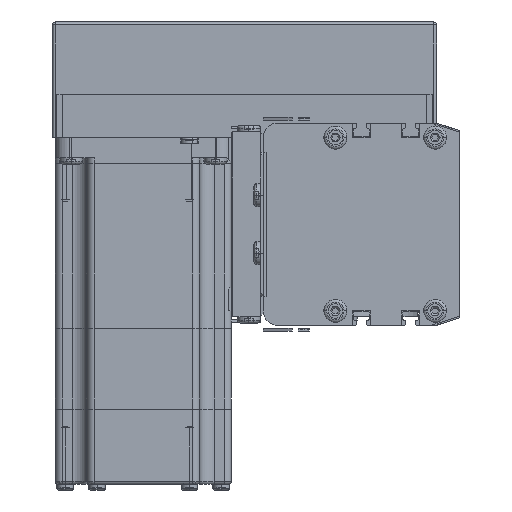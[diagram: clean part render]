
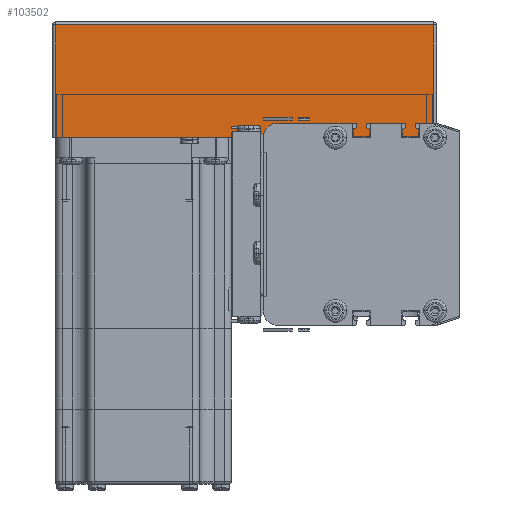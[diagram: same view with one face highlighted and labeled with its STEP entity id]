
A CAD part, left-side view. The second image highlights one B-rep face of the part: STEP entity #103502.
In plain terms, the highlighted planar face has unit normal (-1, 0, 0) as drawn and (0, -1, 0) by its records, which use the part's own axes.
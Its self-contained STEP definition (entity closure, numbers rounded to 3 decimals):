
#27638 = EDGE_CURVE ( 'NONE', #27645, #27647, #83824, .T. ) ;
#27645 = VERTEX_POINT ( 'NONE', #83987 ) ;
#27647 = VERTEX_POINT ( 'NONE', #84009 ) ;
#83824 = LINE ( 'NONE', #83980, #84026 ) ;
#83979 = DIRECTION ( 'NONE',  ( 1., 0., 0. ) ) ;
#83980 = CARTESIAN_POINT ( 'NONE',  ( 0., 0., 0. ) ) ;
#83987 = CARTESIAN_POINT ( 'NONE',  ( 1., 0., 0. ) ) ;
#84009 = CARTESIAN_POINT ( 'NONE',  ( 132., 0., 0. ) ) ;
#84026 = VECTOR ( 'NONE', #83979, 1000. ) ;
#103481 = VERTEX_POINT ( 'NONE', #134685 ) ;
#103502 = ADVANCED_FACE ( 'NONE', ( #134666 ), #134647, .F. ) ;
#103506 = ORIENTED_EDGE ( 'NONE', *, *, #103510, .T. ) ;
#103508 = EDGE_CURVE ( 'NONE', #103927, #27645, #134736, .T. ) ;
#103510 = EDGE_CURVE ( 'NONE', #103481, #103927, #134733, .T. ) ;
#103511 = EDGE_CURVE ( 'NONE', #27647, #103481, #134726, .T. ) ;
#103514 = ORIENTED_EDGE ( 'NONE', *, *, #103511, .T. ) ;
#103516 = ORIENTED_EDGE ( 'NONE', *, *, #27638, .T. ) ;
#103920 = ORIENTED_EDGE ( 'NONE', *, *, #103508, .T. ) ;
#103927 = VERTEX_POINT ( 'NONE', #135943 ) ;
#103941 = EDGE_LOOP ( 'NONE', ( #103506, #103920, #103516, #103514 ) ) ;
#134647 = PLANE ( 'NONE',  #134651 ) ;
#134651 = AXIS2_PLACEMENT_3D ( 'NONE', #134679, #134658, #134657 ) ;
#134657 = DIRECTION ( 'NONE',  ( 0., 0., 1. ) ) ;
#134658 = DIRECTION ( 'NONE',  ( 0., 1., 0. ) ) ;
#134666 = FACE_OUTER_BOUND ( 'NONE', #103941, .T. ) ;
#134679 = CARTESIAN_POINT ( 'NONE',  ( 0., 0., 40. ) ) ;
#134685 = CARTESIAN_POINT ( 'NONE',  ( 132., 0., 39. ) ) ;
#134723 = DIRECTION ( 'NONE',  ( 0., 0., 1. ) ) ;
#134724 = VECTOR ( 'NONE', #134723, 1000. ) ;
#134725 = CARTESIAN_POINT ( 'NONE',  ( 132., 0., 40. ) ) ;
#134726 = LINE ( 'NONE', #134725, #134724 ) ;
#134727 = DIRECTION ( 'NONE',  ( -1., 0., 0. ) ) ;
#134728 = VECTOR ( 'NONE', #134727, 1000. ) ;
#134729 = CARTESIAN_POINT ( 'NONE',  ( 0., 0., 39. ) ) ;
#134730 = DIRECTION ( 'NONE',  ( 0., 0., -1. ) ) ;
#134731 = VECTOR ( 'NONE', #134730, 1000. ) ;
#134732 = CARTESIAN_POINT ( 'NONE',  ( 1., 0., 40. ) ) ;
#134733 = LINE ( 'NONE', #134729, #134728 ) ;
#134736 = LINE ( 'NONE', #134732, #134731 ) ;
#135943 = CARTESIAN_POINT ( 'NONE',  ( 1., 0., 39. ) ) ;
